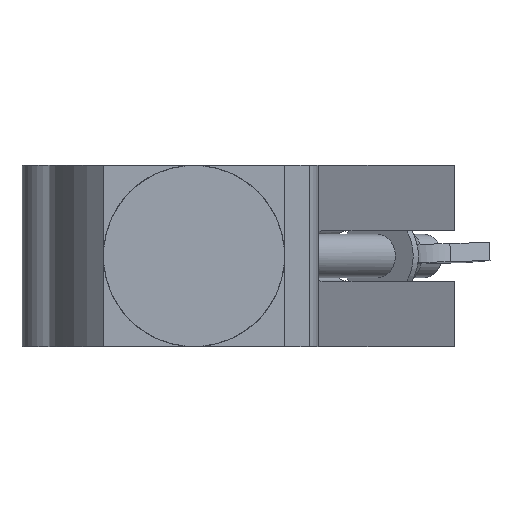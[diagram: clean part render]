
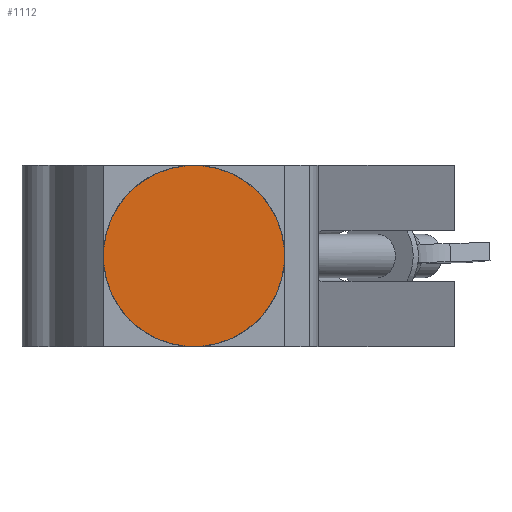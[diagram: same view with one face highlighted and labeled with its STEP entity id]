
A CAD part, front view. The second image highlights one B-rep face of the part: STEP entity #1112.
In plain terms, the highlighted planar face has unit normal (0, -1, 0).
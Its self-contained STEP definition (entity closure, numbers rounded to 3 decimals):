
#261=FACE_OUTER_BOUND('',#319,.T.);
#319=EDGE_LOOP('',(#690));
#382=CIRCLE('',#1191,25.);
#425=VERTEX_POINT('',#1601);
#527=EDGE_CURVE('',#425,#425,#382,.T.);
#690=ORIENTED_EDGE('',*,*,#527,.T.);
#1016=PLANE('',#1190);
#1112=ADVANCED_FACE('',(#261),#1016,.T.);
#1190=AXIS2_PLACEMENT_3D('',#1600,#1294,#1295);
#1191=AXIS2_PLACEMENT_3D('',#1602,#1296,#1297);
#1294=DIRECTION('center_axis',(0.,-1.,0.));
#1295=DIRECTION('ref_axis',(0.707,0.,0.707));
#1296=DIRECTION('center_axis',(0.,-1.,0.));
#1297=DIRECTION('ref_axis',(-0.707,0.,0.707));
#1600=CARTESIAN_POINT('Origin',(-17.678,-182.,17.678));
#1601=CARTESIAN_POINT('',(17.678,-182.,-17.678));
#1602=CARTESIAN_POINT('Origin',(0.,-182.,0.));
